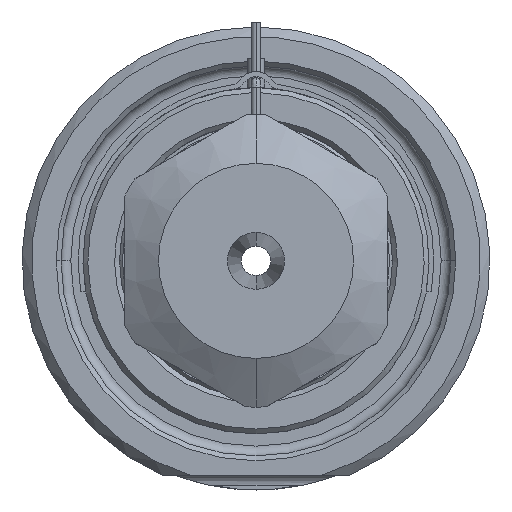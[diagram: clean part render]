
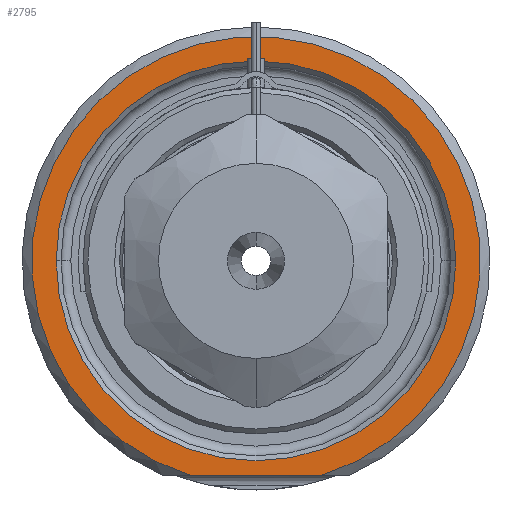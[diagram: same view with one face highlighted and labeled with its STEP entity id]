
A CAD part, front view. The second image highlights one B-rep face of the part: STEP entity #2795.
In plain terms, the highlighted planar face has unit normal (0, -1, 0).
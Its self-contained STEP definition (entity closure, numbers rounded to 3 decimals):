
#1=DIRECTION('',(1.,0.,0.));
#2=VECTOR('',#1,13.416);
#3=CARTESIAN_POINT('',(-6.708,0.,-22.));
#4=LINE('',#3,#2);
#5=CARTESIAN_POINT('',(0.,0.,0.));
#6=DIRECTION('',(0.,1.,0.));
#7=DIRECTION('',(-1.,0.,0.));
#8=AXIS2_PLACEMENT_3D('',#5,#6,#7);
#10=CARTESIAN_POINT('',(0.,0.,0.));
#11=DIRECTION('',(0.,1.,0.));
#12=DIRECTION('',(1.,0.,0.));
#13=AXIS2_PLACEMENT_3D('',#10,#11,#12);
#121=CARTESIAN_POINT('',(0.,0.,0.));
#122=DIRECTION('',(0.,-1.,0.));
#123=DIRECTION('',(0.292,0.,-0.957));
#124=AXIS2_PLACEMENT_3D('',#121,#122,#123);
#2319=CARTESIAN_POINT('',(-20.5,0.,0.));
#2320=CARTESIAN_POINT('',(20.5,0.,0.));
#2321=VERTEX_POINT('',#2319);
#2322=VERTEX_POINT('',#2320);
#2359=CARTESIAN_POINT('',(-6.708,0.,-22.));
#2360=CARTESIAN_POINT('',(6.708,0.,-22.));
#2361=VERTEX_POINT('',#2359);
#2362=VERTEX_POINT('',#2360);
#2778=CARTESIAN_POINT('',(0.,0.,0.));
#2779=DIRECTION('',(0.,-1.,0.));
#2780=DIRECTION('',(1.,0.,0.));
#2781=AXIS2_PLACEMENT_3D('',#2778,#2779,#2780);
#2782=PLANE('',#2781);
#2784=ORIENTED_EDGE('',*,*,#2783,.F.);
#2786=ORIENTED_EDGE('',*,*,#2785,.F.);
#2787=EDGE_LOOP('',(#2784,#2786));
#2788=FACE_OUTER_BOUND('',#2787,.F.);
#2790=ORIENTED_EDGE('',*,*,#2789,.F.);
#2792=ORIENTED_EDGE('',*,*,#2791,.F.);
#2793=EDGE_LOOP('',(#2790,#2792));
#2794=FACE_BOUND('',#2793,.F.);
#2795=ADVANCED_FACE('',(#2788,#2794),#2782,.T.);
#9=CIRCLE('',#8,20.5);
#14=CIRCLE('',#13,20.5);
#125=CIRCLE('',#124,23.);
#2783=EDGE_CURVE('',#2361,#2362,#4,.T.);
#2785=EDGE_CURVE('',#2362,#2361,#125,.T.);
#2789=EDGE_CURVE('',#2321,#2322,#9,.T.);
#2791=EDGE_CURVE('',#2322,#2321,#14,.T.);
